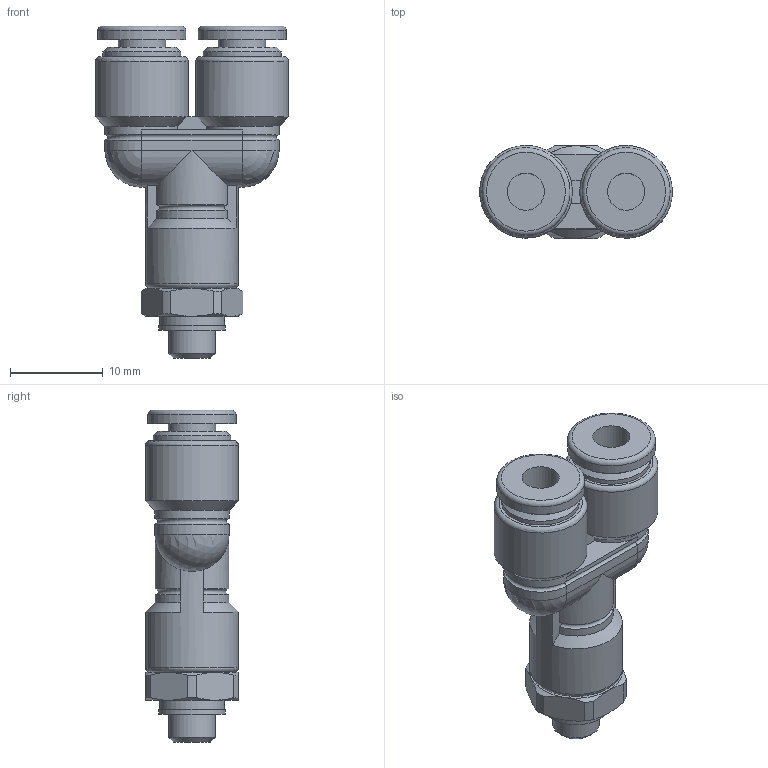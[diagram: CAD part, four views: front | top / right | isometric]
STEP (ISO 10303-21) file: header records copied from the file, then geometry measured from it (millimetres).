
FILE_DESCRIPTION(/* description */ (''),/* implementation_level */ '2;1');
FILE_NAME(/* name */ 'E:\2013年度版　3D-DATA\【02】 TOUCH CONNECTOR FIVE SUS\[04] MALE BRANCH Y\[01] FS4-M5MY FS4-M5MYW.stp',/* time_stamp */ '2013-08-06T16:58:58+09:00',/* author */ ('takahashi-pc2'),/* organization */ (''),/* preprocessor_version */ 'ST-DEVELOPER v15.2',/* originating_system */ 'Autodesk Inventor 2014',/* authorisation */ '');
FILE_SCHEMA (('AUTOMOTIVE_DESIGN { 1 0 10303 214 3 1 1 }'));
Length unit declared in the file: millimetre
Products named in the file (1): [01] FS4-M5MY FS4-M5MYW
Bounding box: 20.8 x 10 x 35.8 mm (x, y, z)
Volume: 3101.2 mm3; surface area: 2285.3 mm2
Topology: 1 solids, 1 shells, 96 faces, 212 edges, 126 vertices
Faces by surface type: plane 34, cylinder 32, cone 19, torus 9, sphere 2
Full cylindrical faces by diameter (mm): 4 x2, 5 x1, 5.1 x2, 7 x1, 7.2 x1, 8.4 x2, 9.5 x2, 10 x3
Entity records: 2517 total; most frequent: CARTESIAN_POINT 545, DIRECTION 430, ORIENTED_EDGE 366, AXIS2_PLACEMENT_3D 188, EDGE_CURVE 183, EDGE_LOOP 130, VERTEX_POINT 123, ADVANCED_FACE 96
